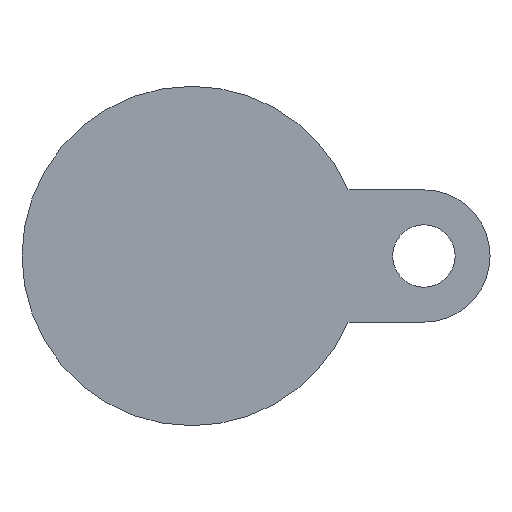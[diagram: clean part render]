
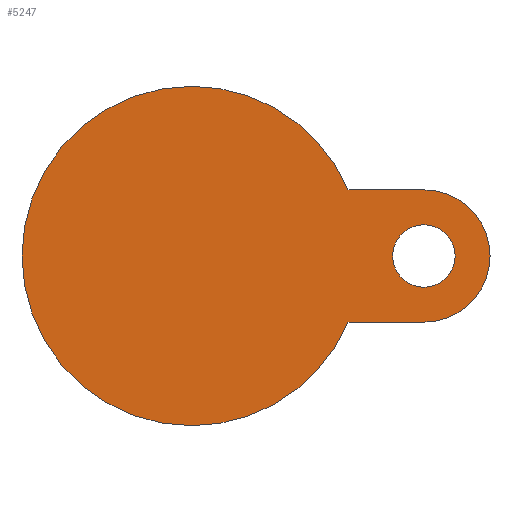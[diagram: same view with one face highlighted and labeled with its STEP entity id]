
A CAD part, front view. The second image highlights one B-rep face of the part: STEP entity #5247.
In plain terms, the highlighted planar face has unit normal (0, -1, 0).
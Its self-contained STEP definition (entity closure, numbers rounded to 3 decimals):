
#14 = AXIS2_PLACEMENT_3D ( 'NONE', #3181, #2368, #4949 ) ;
#83 = VERTEX_POINT ( 'NONE', #1972 ) ;
#140 = ORIENTED_EDGE ( 'NONE', *, *, #2125, .T. ) ;
#389 = DIRECTION ( 'NONE',  ( 0., 1., 0. ) ) ;
#600 = CARTESIAN_POINT ( 'NONE',  ( 43.749, -22., 18.5 ) ) ;
#621 = AXIS2_PLACEMENT_3D ( 'NONE', #2331, #4004, #3636 ) ;
#727 = CARTESIAN_POINT ( 'NONE',  ( 65., -22., 8.75 ) ) ;
#863 = DIRECTION ( 'NONE',  ( 0., 0., 1. ) ) ;
#990 = CIRCLE ( 'NONE', #14, 8.75 ) ;
#1071 = DIRECTION ( 'NONE',  ( 0., -1., 0. ) ) ;
#1154 = CIRCLE ( 'NONE', #4864, 47.5 ) ;
#1167 = VERTEX_POINT ( 'NONE', #5434 ) ;
#1223 = AXIS2_PLACEMENT_3D ( 'NONE', #4825, #1071, #4024 ) ;
#1246 = AXIS2_PLACEMENT_3D ( 'NONE', #4154, #1692, #863 ) ;
#1304 = EDGE_LOOP ( 'NONE', ( #3122, #4606, #2845, #1615, #4866, #140 ) ) ;
#1328 = VECTOR ( 'NONE', #2364, 1000. ) ;
#1342 = CARTESIAN_POINT ( 'NONE',  ( 28.666, -22., 18.5 ) ) ;
#1389 = CARTESIAN_POINT ( 'NONE',  ( 43.749, -22., -18.5 ) ) ;
#1410 = VERTEX_POINT ( 'NONE', #4817 ) ;
#1509 = VERTEX_POINT ( 'NONE', #727 ) ;
#1544 = EDGE_CURVE ( 'NONE', #3392, #1509, #990, .T. ) ;
#1615 = ORIENTED_EDGE ( 'NONE', *, *, #3527, .F. ) ;
#1637 = EDGE_CURVE ( 'NONE', #1509, #3392, #4078, .T. ) ;
#1692 = DIRECTION ( 'NONE',  ( 0., 1., 0. ) ) ;
#1719 = DIRECTION ( 'NONE',  ( 0., 0., 1. ) ) ;
#1790 = CARTESIAN_POINT ( 'NONE',  ( 65., -22., 0. ) ) ;
#1972 = CARTESIAN_POINT ( 'NONE',  ( 65., -22., -18.5 ) ) ;
#2061 = CARTESIAN_POINT ( 'NONE',  ( 65., -22., -18.5 ) ) ;
#2062 = DIRECTION ( 'NONE',  ( 0., 0., 1. ) ) ;
#2092 = CIRCLE ( 'NONE', #1223, 18.5 ) ;
#2125 = EDGE_CURVE ( 'NONE', #83, #1410, #2092, .T. ) ;
#2129 = LINE ( 'NONE', #1342, #3707 ) ;
#2166 = DIRECTION ( 'NONE',  ( 0., -1., 0. ) ) ;
#2331 = CARTESIAN_POINT ( 'NONE',  ( 0., -22., 0. ) ) ;
#2341 = CARTESIAN_POINT ( 'NONE',  ( 65., -22., -8.75 ) ) ;
#2364 = DIRECTION ( 'NONE',  ( 1., 0., 0. ) ) ;
#2368 = DIRECTION ( 'NONE',  ( 0., -1., 0. ) ) ;
#2386 = AXIS2_PLACEMENT_3D ( 'NONE', #4171, #389, #2062 ) ;
#2641 = ORIENTED_EDGE ( 'NONE', *, *, #1637, .F. ) ;
#2738 = EDGE_CURVE ( 'NONE', #4384, #83, #4473, .T. ) ;
#2766 = CARTESIAN_POINT ( 'NONE',  ( 0., -22., -47.5 ) ) ;
#2829 = CIRCLE ( 'NONE', #1246, 47.5 ) ;
#2845 = ORIENTED_EDGE ( 'NONE', *, *, #3117, .F. ) ;
#2938 = DIRECTION ( 'NONE',  ( 0., 1., 0. ) ) ;
#3030 = EDGE_CURVE ( 'NONE', #1410, #4131, #2129, .T. ) ;
#3117 = EDGE_CURVE ( 'NONE', #4520, #1167, #1154, .T. ) ;
#3122 = ORIENTED_EDGE ( 'NONE', *, *, #3030, .T. ) ;
#3181 = CARTESIAN_POINT ( 'NONE',  ( 65., -22., 0. ) ) ;
#3198 = FACE_OUTER_BOUND ( 'NONE', #1304, .T. ) ;
#3345 = EDGE_CURVE ( 'NONE', #1167, #4131, #2829, .T. ) ;
#3392 = VERTEX_POINT ( 'NONE', #2341 ) ;
#3527 = EDGE_CURVE ( 'NONE', #4384, #4520, #3537, .T. ) ;
#3537 = CIRCLE ( 'NONE', #2386, 47.5 ) ;
#3636 = DIRECTION ( 'NONE',  ( 0., 0., -1. ) ) ;
#3707 = VECTOR ( 'NONE', #5018, 1000. ) ;
#3993 = EDGE_LOOP ( 'NONE', ( #4140, #2641 ) ) ;
#4004 = DIRECTION ( 'NONE',  ( 0., -1., 0. ) ) ;
#4024 = DIRECTION ( 'NONE',  ( 0., 0., -1. ) ) ;
#4078 = CIRCLE ( 'NONE', #4963, 8.75 ) ;
#4131 = VERTEX_POINT ( 'NONE', #600 ) ;
#4140 = ORIENTED_EDGE ( 'NONE', *, *, #1544, .F. ) ;
#4154 = CARTESIAN_POINT ( 'NONE',  ( 0., -22., 0. ) ) ;
#4171 = CARTESIAN_POINT ( 'NONE',  ( 0., -22., 0. ) ) ;
#4293 = CARTESIAN_POINT ( 'NONE',  ( 0., -22., 0. ) ) ;
#4384 = VERTEX_POINT ( 'NONE', #1389 ) ;
#4473 = LINE ( 'NONE', #2061, #1328 ) ;
#4520 = VERTEX_POINT ( 'NONE', #2766 ) ;
#4606 = ORIENTED_EDGE ( 'NONE', *, *, #3345, .F. ) ;
#4777 = DIRECTION ( 'NONE',  ( 0., 0., -1. ) ) ;
#4817 = CARTESIAN_POINT ( 'NONE',  ( 65., -22., 18.5 ) ) ;
#4825 = CARTESIAN_POINT ( 'NONE',  ( 65., -22., 0. ) ) ;
#4864 = AXIS2_PLACEMENT_3D ( 'NONE', #4293, #2938, #1719 ) ;
#4866 = ORIENTED_EDGE ( 'NONE', *, *, #2738, .T. ) ;
#4888 = PLANE ( 'NONE',  #621 ) ;
#4949 = DIRECTION ( 'NONE',  ( 0., 0., -1. ) ) ;
#4963 = AXIS2_PLACEMENT_3D ( 'NONE', #1790, #2166, #4777 ) ;
#5018 = DIRECTION ( 'NONE',  ( -1., 0., 0. ) ) ;
#5247 = ADVANCED_FACE ( 'NONE', ( #3198, #5279 ), #4888, .T. ) ;
#5279 = FACE_BOUND ( 'NONE', #3993, .T. ) ;
#5434 = CARTESIAN_POINT ( 'NONE',  ( 0., -22., 47.5 ) ) ;
